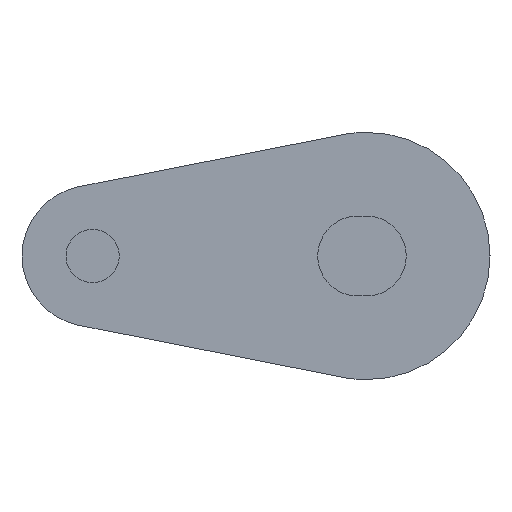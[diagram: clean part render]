
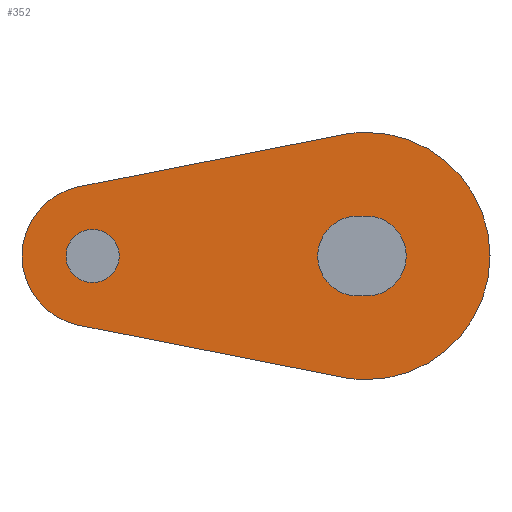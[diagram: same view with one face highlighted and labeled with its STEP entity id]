
A CAD part, left-side view. The second image highlights one B-rep face of the part: STEP entity #352.
In plain terms, the highlighted planar face has unit normal (-1, 0, 0).
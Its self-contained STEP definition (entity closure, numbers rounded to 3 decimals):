
#23 = EDGE_CURVE ( 'NONE', #557, #480, #819, .T. ) ;
#26 = AXIS2_PLACEMENT_3D ( 'NONE', #502, #530, #531 ) ;
#37 = EDGE_CURVE ( 'NONE', #625, #582, #770, .T. ) ;
#38 = AXIS2_PLACEMENT_3D ( 'NONE', #671, #450, #392 ) ;
#43 = EDGE_CURVE ( 'NONE', #613, #544, #766, .T. ) ;
#55 = EDGE_CURVE ( 'NONE', #582, #621, #762, .T. ) ;
#64 = EDGE_CURVE ( 'NONE', #544, #542, #751, .T. ) ;
#78 = AXIS2_PLACEMENT_3D ( 'NONE', #585, #568, #567 ) ;
#83 = AXIS2_PLACEMENT_3D ( 'NONE', #588, #577, #575 ) ;
#92 = AXIS2_PLACEMENT_3D ( 'NONE', #397, #517, #394 ) ;
#101 = EDGE_CURVE ( 'NONE', #542, #461, #722, .T. ) ;
#102 = EDGE_CURVE ( 'NONE', #461, #613, #727, .T. ) ;
#103 = EDGE_CURVE ( 'NONE', #662, #486, #719, .T. ) ;
#116 = AXIS2_PLACEMENT_3D ( 'NONE', #463, #446, #445 ) ;
#119 = EDGE_CURVE ( 'NONE', #621, #576, #707, .T. ) ;
#145 = EDGE_CURVE ( 'NONE', #576, #557, #692, .T. ) ;
#153 = AXIS2_PLACEMENT_3D ( 'NONE', #490, #470, #469 ) ;
#156 = EDGE_CURVE ( 'NONE', #486, #662, #900, .T. ) ;
#159 = AXIS2_PLACEMENT_3D ( 'NONE', #415, #414, #413 ) ;
#172 = EDGE_CURVE ( 'NONE', #480, #625, #891, .T. ) ;
#177 = AXIS2_PLACEMENT_3D ( 'NONE', #541, #540, #539 ) ;
#183 = CARTESIAN_POINT ( 'NONE',  ( -357.5, 0.5, 2.26 ) ) ;
#184 = CARTESIAN_POINT ( 'NONE',  ( -357.5, 0.5, -2.26 ) ) ;
#194 = CARTESIAN_POINT ( 'NONE',  ( -357.5, 0., 7. ) ) ;
#295 = CARTESIAN_POINT ( 'NONE',  ( -357.5, 15.5, 1.51 ) ) ;
#315 = CARTESIAN_POINT ( 'NONE',  ( -357.5, 0., -7. ) ) ;
#317 = CARTESIAN_POINT ( 'NONE',  ( -357.5, 16.274, -3.924 ) ) ;
#319 = CARTESIAN_POINT ( 'NONE',  ( -357.5, 0., 2.26 ) ) ;
#321 = CARTESIAN_POINT ( 'NONE',  ( -357.5, 1.355, -6.868 ) ) ;
#323 = CARTESIAN_POINT ( 'NONE',  ( -357.5, 16.274, 3.924 ) ) ;
#333 = CARTESIAN_POINT ( 'NONE',  ( -357.5, 1.355, 6.868 ) ) ;
#336 = CARTESIAN_POINT ( 'NONE',  ( -357.5, 0., -2.26 ) ) ;
#339 = CARTESIAN_POINT ( 'NONE',  ( -357.5, 15.5, -1.51 ) ) ;
#352 = ADVANCED_FACE ( 'NONE', ( #988, #990, #914 ), #416, .T. ) ;
#392 = DIRECTION ( 'NONE',  ( 0., 0., -1. ) ) ;
#394 = DIRECTION ( 'NONE',  ( 0., 0., -1. ) ) ;
#397 = CARTESIAN_POINT ( 'NONE',  ( -357.5, 0., 0. ) ) ;
#413 = DIRECTION ( 'NONE',  ( 0., 0., -1. ) ) ;
#414 = DIRECTION ( 'NONE',  ( -1., 0., 0. ) ) ;
#415 = CARTESIAN_POINT ( 'NONE',  ( -357.5, 15.5, 0. ) ) ;
#416 = PLANE ( 'NONE',  #159 ) ;
#445 = DIRECTION ( 'NONE',  ( 0., 0., -1. ) ) ;
#446 = DIRECTION ( 'NONE',  ( 1., 0., 0. ) ) ;
#450 = DIRECTION ( 'NONE',  ( 1., 0., 0. ) ) ;
#461 = VERTEX_POINT ( 'NONE', #183 ) ;
#463 = CARTESIAN_POINT ( 'NONE',  ( -357.5, 0., 0. ) ) ;
#469 = DIRECTION ( 'NONE',  ( 0., 0., -1. ) ) ;
#470 = DIRECTION ( 'NONE',  ( 1., 0., 0. ) ) ;
#480 = VERTEX_POINT ( 'NONE', #194 ) ;
#484 = DIRECTION ( 'NONE',  ( 0., -0.981, 0.194 ) ) ;
#485 = CARTESIAN_POINT ( 'NONE',  ( -357.5, 16.274, 3.924 ) ) ;
#486 = VERTEX_POINT ( 'NONE', #339 ) ;
#490 = CARTESIAN_POINT ( 'NONE',  ( -357.5, 15.5, 0. ) ) ;
#502 = CARTESIAN_POINT ( 'NONE',  ( -357.5, 0., 0. ) ) ;
#517 = DIRECTION ( 'NONE',  ( 1., 0., 0. ) ) ;
#530 = DIRECTION ( 'NONE',  ( 1., 0., 0. ) ) ;
#531 = DIRECTION ( 'NONE',  ( 0., 0., -1. ) ) ;
#539 = DIRECTION ( 'NONE',  ( 0., 0., -1. ) ) ;
#540 = DIRECTION ( 'NONE',  ( 1., 0., 0. ) ) ;
#541 = CARTESIAN_POINT ( 'NONE',  ( -357.5, 15.5, 0. ) ) ;
#542 = VERTEX_POINT ( 'NONE', #184 ) ;
#544 = VERTEX_POINT ( 'NONE', #336 ) ;
#557 = VERTEX_POINT ( 'NONE', #333 ) ;
#560 = DIRECTION ( 'NONE',  ( 0., 0.981, 0.194 ) ) ;
#567 = DIRECTION ( 'NONE',  ( 0., 0., -1. ) ) ;
#568 = DIRECTION ( 'NONE',  ( 1., 0., 0. ) ) ;
#572 = DIRECTION ( 'NONE',  ( 0., -1., 0. ) ) ;
#574 = CARTESIAN_POINT ( 'NONE',  ( -357.5, 0.5, 2.26 ) ) ;
#575 = DIRECTION ( 'NONE',  ( 0., 0., -1. ) ) ;
#576 = VERTEX_POINT ( 'NONE', #323 ) ;
#577 = DIRECTION ( 'NONE',  ( 1., 0., 0. ) ) ;
#582 = VERTEX_POINT ( 'NONE', #321 ) ;
#585 = CARTESIAN_POINT ( 'NONE',  ( -357.5, 15.5, 0. ) ) ;
#588 = CARTESIAN_POINT ( 'NONE',  ( -357.5, 0.5, 0. ) ) ;
#613 = VERTEX_POINT ( 'NONE', #319 ) ;
#621 = VERTEX_POINT ( 'NONE', #317 ) ;
#625 = VERTEX_POINT ( 'NONE', #315 ) ;
#632 = DIRECTION ( 'NONE',  ( 0., 1., 0. ) ) ;
#645 = CARTESIAN_POINT ( 'NONE',  ( -357.5, 0.5, -2.26 ) ) ;
#662 = VERTEX_POINT ( 'NONE', #295 ) ;
#669 = CARTESIAN_POINT ( 'NONE',  ( -357.5, 1.355, -6.868 ) ) ;
#671 = CARTESIAN_POINT ( 'NONE',  ( -357.5, 0., 0. ) ) ;
#689 = VECTOR ( 'NONE', #484, 1000. ) ;
#692 = LINE ( 'NONE', #485, #689 ) ;
#707 = CIRCLE ( 'NONE', #177, 4. ) ;
#719 = CIRCLE ( 'NONE', #78, 1.51 ) ;
#722 = CIRCLE ( 'NONE', #83, 2.26 ) ;
#726 = VECTOR ( 'NONE', #572, 1000. ) ;
#727 = LINE ( 'NONE', #574, #726 ) ;
#751 = LINE ( 'NONE', #645, #755 ) ;
#755 = VECTOR ( 'NONE', #632, 1000. ) ;
#758 = VECTOR ( 'NONE', #560, 1000. ) ;
#762 = LINE ( 'NONE', #669, #758 ) ;
#766 = CIRCLE ( 'NONE', #26, 2.26 ) ;
#770 = CIRCLE ( 'NONE', #38, 7. ) ;
#811 = ORIENTED_EDGE ( 'NONE', *, *, #145, .F. ) ;
#815 = EDGE_LOOP ( 'NONE', ( #835, #840, #1054, #1053 ) ) ;
#819 = CIRCLE ( 'NONE', #92, 7. ) ;
#826 = ORIENTED_EDGE ( 'NONE', *, *, #55, .F. ) ;
#827 = ORIENTED_EDGE ( 'NONE', *, *, #37, .F. ) ;
#835 = ORIENTED_EDGE ( 'NONE', *, *, #101, .T. ) ;
#840 = ORIENTED_EDGE ( 'NONE', *, *, #102, .T. ) ;
#843 = ORIENTED_EDGE ( 'NONE', *, *, #23, .F. ) ;
#891 = CIRCLE ( 'NONE', #116, 7. ) ;
#900 = CIRCLE ( 'NONE', #153, 1.51 ) ;
#914 = FACE_OUTER_BOUND ( 'NONE', #1004, .T. ) ;
#988 = FACE_BOUND ( 'NONE', #815, .T. ) ;
#990 = FACE_BOUND ( 'NONE', #1048, .T. ) ;
#1004 = EDGE_LOOP ( 'NONE', ( #1064, #826, #827, #1065, #843, #811 ) ) ;
#1048 = EDGE_LOOP ( 'NONE', ( #1055, #1063 ) ) ;
#1053 = ORIENTED_EDGE ( 'NONE', *, *, #64, .T. ) ;
#1054 = ORIENTED_EDGE ( 'NONE', *, *, #43, .T. ) ;
#1055 = ORIENTED_EDGE ( 'NONE', *, *, #156, .T. ) ;
#1063 = ORIENTED_EDGE ( 'NONE', *, *, #103, .T. ) ;
#1064 = ORIENTED_EDGE ( 'NONE', *, *, #119, .F. ) ;
#1065 = ORIENTED_EDGE ( 'NONE', *, *, #172, .F. ) ;
